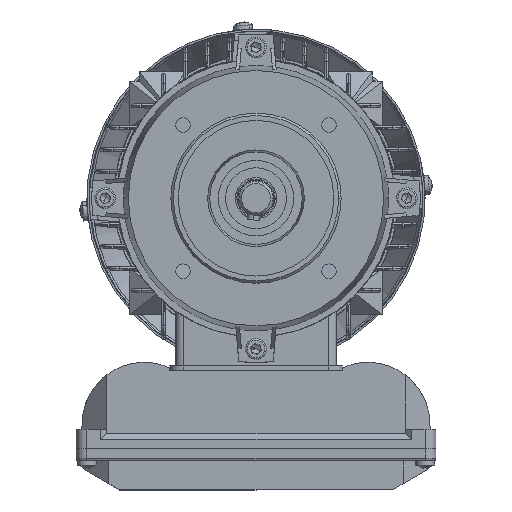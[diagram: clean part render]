
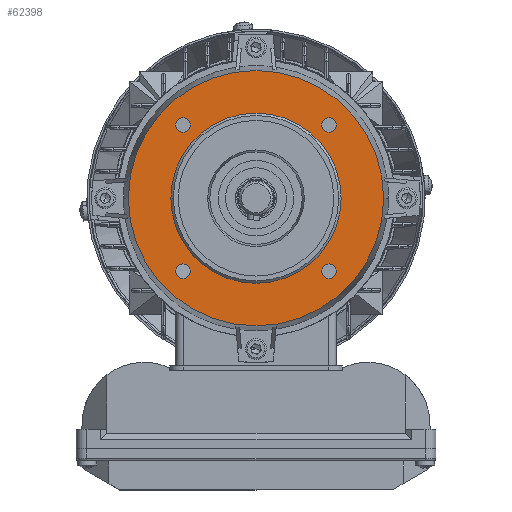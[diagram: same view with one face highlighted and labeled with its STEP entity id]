
A CAD part, front view. The second image highlights one B-rep face of the part: STEP entity #62398.
In plain terms, the highlighted planar face has unit normal (0, -1, 0).
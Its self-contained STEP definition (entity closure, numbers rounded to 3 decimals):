
#322 = CIRCLE ( 'NONE', #95672, 3. ) ;
#516 = DIRECTION ( 'NONE',  ( 0., 1., 0. ) ) ;
#1071 = AXIS2_PLACEMENT_3D ( 'NONE', #90438, #61779, #23822 ) ;
#1406 = CARTESIAN_POINT ( 'NONE',  ( 11.669, -101.956, 0. ) ) ;
#1731 = CIRCLE ( 'NONE', #120976, 3. ) ;
#5685 = CIRCLE ( 'NONE', #55283, 3. ) ;
#5962 = CIRCLE ( 'NONE', #13847, 3. ) ;
#6706 = EDGE_LOOP ( 'NONE', ( #52872, #12403 ) ) ;
#6913 = DIRECTION ( 'NONE',  ( 0., -1., 0. ) ) ;
#7221 = VERTEX_POINT ( 'NONE', #93813 ) ;
#7744 = DIRECTION ( 'NONE',  ( 1., 0., 0. ) ) ;
#7893 = VERTEX_POINT ( 'NONE', #41934 ) ;
#8940 = FACE_BOUND ( 'NONE', #121042, .T. ) ;
#9597 = CARTESIAN_POINT ( 'NONE',  ( 41.721, -101.956, -30.052 ) ) ;
#10321 = CARTESIAN_POINT ( 'NONE',  ( -40.831, -101.956, 0. ) ) ;
#11697 = CARTESIAN_POINT ( 'NONE',  ( 11.669, -101.956, 0. ) ) ;
#12403 = ORIENTED_EDGE ( 'NONE', *, *, #94538, .F. ) ;
#13397 = EDGE_LOOP ( 'NONE', ( #71540, #41876 ) ) ;
#13443 = CIRCLE ( 'NONE', #77082, 35. ) ;
#13493 = CIRCLE ( 'NONE', #94984, 52.5 ) ;
#13847 = AXIS2_PLACEMENT_3D ( 'NONE', #101835, #73830, #37075 ) ;
#17170 = CARTESIAN_POINT ( 'NONE',  ( -15.383, -101.956, -30.052 ) ) ;
#20406 = DIRECTION ( 'NONE',  ( -1., 0., 0. ) ) ;
#21633 = EDGE_CURVE ( 'NONE', #29491, #51544, #26386, .T. ) ;
#21645 = ORIENTED_EDGE ( 'NONE', *, *, #118406, .F. ) ;
#22593 = VERTEX_POINT ( 'NONE', #37470 ) ;
#22851 = CARTESIAN_POINT ( 'NONE',  ( 11.669, -101.956, 0. ) ) ;
#22974 = DIRECTION ( 'NONE',  ( -1., 0., 0. ) ) ;
#23806 = CIRCLE ( 'NONE', #101369, 3. ) ;
#23822 = DIRECTION ( 'NONE',  ( 1., 0., 0. ) ) ;
#26386 = CIRCLE ( 'NONE', #62133, 3. ) ;
#29491 = VERTEX_POINT ( 'NONE', #36252 ) ;
#29644 = EDGE_CURVE ( 'NONE', #103256, #22593, #70981, .T. ) ;
#31073 = VERTEX_POINT ( 'NONE', #62333 ) ;
#31653 = EDGE_CURVE ( 'NONE', #22593, #103256, #13443, .T. ) ;
#31860 = VERTEX_POINT ( 'NONE', #17170 ) ;
#32839 = ORIENTED_EDGE ( 'NONE', *, *, #111057, .F. ) ;
#32969 = EDGE_CURVE ( 'NONE', #7893, #73748, #1731, .T. ) ;
#33098 = CARTESIAN_POINT ( 'NONE',  ( -18.383, -101.956, 30.052 ) ) ;
#36252 = CARTESIAN_POINT ( 'NONE',  ( 44.721, -101.956, 30.052 ) ) ;
#37075 = DIRECTION ( 'NONE',  ( 1., 0., 0. ) ) ;
#37470 = CARTESIAN_POINT ( 'NONE',  ( 46.669, -101.956, 0. ) ) ;
#39309 = DIRECTION ( 'NONE',  ( 0., -1., 0. ) ) ;
#39402 = DIRECTION ( 'NONE',  ( 0., -1., 0. ) ) ;
#39948 = CARTESIAN_POINT ( 'NONE',  ( 11.669, -101.956, 0. ) ) ;
#41876 = ORIENTED_EDGE ( 'NONE', *, *, #106941, .F. ) ;
#41934 = CARTESIAN_POINT ( 'NONE',  ( 38.721, -101.956, -30.052 ) ) ;
#45295 = CIRCLE ( 'NONE', #67166, 52.5 ) ;
#46999 = DIRECTION ( 'NONE',  ( 1., 0., 0. ) ) ;
#47066 = EDGE_CURVE ( 'NONE', #116061, #7221, #322, .T. ) ;
#47559 = DIRECTION ( 'NONE',  ( 0., -1., 0. ) ) ;
#51544 = VERTEX_POINT ( 'NONE', #66334 ) ;
#51608 = DIRECTION ( 'NONE',  ( 0., 1., 0. ) ) ;
#52001 = ORIENTED_EDGE ( 'NONE', *, *, #47066, .F. ) ;
#52872 = ORIENTED_EDGE ( 'NONE', *, *, #21633, .F. ) ;
#55283 = AXIS2_PLACEMENT_3D ( 'NONE', #73137, #109895, #7744 ) ;
#55432 = ORIENTED_EDGE ( 'NONE', *, *, #106475, .F. ) ;
#60824 = DIRECTION ( 'NONE',  ( 0., 1., 0. ) ) ;
#61093 = DIRECTION ( 'NONE',  ( -1., 0., 0. ) ) ;
#61779 = DIRECTION ( 'NONE',  ( 0., -1., 0. ) ) ;
#62025 = ORIENTED_EDGE ( 'NONE', *, *, #32969, .F. ) ;
#62133 = AXIS2_PLACEMENT_3D ( 'NONE', #117133, #39309, #114660 ) ;
#62333 = CARTESIAN_POINT ( 'NONE',  ( 64.169, -101.956, 0. ) ) ;
#62398 = ADVANCED_FACE ( 'NONE', ( #76170, #66192, #84257, #122242, #94229, #8940 ), #84882, .T. ) ;
#62661 = ORIENTED_EDGE ( 'NONE', *, *, #29644, .T. ) ;
#66192 = FACE_BOUND ( 'NONE', #113962, .T. ) ;
#66334 = CARTESIAN_POINT ( 'NONE',  ( 38.721, -101.956, 30.052 ) ) ;
#67166 = AXIS2_PLACEMENT_3D ( 'NONE', #1406, #51608, #22974 ) ;
#67336 = EDGE_LOOP ( 'NONE', ( #55432, #21645 ) ) ;
#70020 = DIRECTION ( 'NONE',  ( 0., -1., 0. ) ) ;
#70454 = DIRECTION ( 'NONE',  ( 0., 1., 0. ) ) ;
#70981 = CIRCLE ( 'NONE', #82877, 35. ) ;
#71540 = ORIENTED_EDGE ( 'NONE', *, *, #121149, .F. ) ;
#71687 = DIRECTION ( 'NONE',  ( 1., 0., 0. ) ) ;
#73137 = CARTESIAN_POINT ( 'NONE',  ( 41.721, -101.956, 30.052 ) ) ;
#73407 = VERTEX_POINT ( 'NONE', #96726 ) ;
#73748 = VERTEX_POINT ( 'NONE', #103458 ) ;
#73830 = DIRECTION ( 'NONE',  ( 0., -1., 0. ) ) ;
#76170 = FACE_OUTER_BOUND ( 'NONE', #13397, .T. ) ;
#76602 = CIRCLE ( 'NONE', #1071, 3. ) ;
#77082 = AXIS2_PLACEMENT_3D ( 'NONE', #22851, #60824, #98816 ) ;
#77396 = DIRECTION ( 'NONE',  ( 1., 0., 0. ) ) ;
#78145 = CARTESIAN_POINT ( 'NONE',  ( 41.721, -101.956, -30.052 ) ) ;
#82877 = AXIS2_PLACEMENT_3D ( 'NONE', #39948, #70454, #61093 ) ;
#84257 = FACE_BOUND ( 'NONE', #67336, .T. ) ;
#84353 = CARTESIAN_POINT ( 'NONE',  ( -18.383, -101.956, -30.052 ) ) ;
#84882 = PLANE ( 'NONE',  #111568 ) ;
#90438 = CARTESIAN_POINT ( 'NONE',  ( -18.383, -101.956, -30.052 ) ) ;
#93692 = DIRECTION ( 'NONE',  ( 0., -1., 0. ) ) ;
#93813 = CARTESIAN_POINT ( 'NONE',  ( -15.383, -101.956, 30.052 ) ) ;
#94229 = FACE_BOUND ( 'NONE', #6706, .T. ) ;
#94538 = EDGE_CURVE ( 'NONE', #51544, #29491, #5685, .T. ) ;
#94984 = AXIS2_PLACEMENT_3D ( 'NONE', #11697, #516, #20406 ) ;
#95672 = AXIS2_PLACEMENT_3D ( 'NONE', #33098, #6913, #71687 ) ;
#96726 = CARTESIAN_POINT ( 'NONE',  ( -21.383, -101.956, -30.052 ) ) ;
#97149 = ORIENTED_EDGE ( 'NONE', *, *, #110897, .F. ) ;
#98539 = CARTESIAN_POINT ( 'NONE',  ( -40.831, -101.956, 0. ) ) ;
#98816 = DIRECTION ( 'NONE',  ( -1., 0., 0. ) ) ;
#100414 = EDGE_LOOP ( 'NONE', ( #32839, #62025 ) ) ;
#101369 = AXIS2_PLACEMENT_3D ( 'NONE', #78145, #70020, #108006 ) ;
#101835 = CARTESIAN_POINT ( 'NONE',  ( -18.383, -101.956, 30.052 ) ) ;
#102512 = ORIENTED_EDGE ( 'NONE', *, *, #31653, .T. ) ;
#103256 = VERTEX_POINT ( 'NONE', #105432 ) ;
#103458 = CARTESIAN_POINT ( 'NONE',  ( 44.721, -101.956, -30.052 ) ) ;
#105432 = CARTESIAN_POINT ( 'NONE',  ( -23.331, -101.956, 0. ) ) ;
#105450 = DIRECTION ( 'NONE',  ( 1., 0., 0. ) ) ;
#105526 = CARTESIAN_POINT ( 'NONE',  ( -21.383, -101.956, 30.052 ) ) ;
#106475 = EDGE_CURVE ( 'NONE', #31860, #73407, #116880, .T. ) ;
#106907 = AXIS2_PLACEMENT_3D ( 'NONE', #84353, #93692, #46999 ) ;
#106941 = EDGE_CURVE ( 'NONE', #31073, #117673, #45295, .T. ) ;
#108006 = DIRECTION ( 'NONE',  ( 1., 0., 0. ) ) ;
#109895 = DIRECTION ( 'NONE',  ( 0., -1., 0. ) ) ;
#110897 = EDGE_CURVE ( 'NONE', #7221, #116061, #5962, .T. ) ;
#111057 = EDGE_CURVE ( 'NONE', #73748, #7893, #23806, .T. ) ;
#111568 = AXIS2_PLACEMENT_3D ( 'NONE', #98539, #39402, #77396 ) ;
#113962 = EDGE_LOOP ( 'NONE', ( #97149, #52001 ) ) ;
#114660 = DIRECTION ( 'NONE',  ( 1., 0., 0. ) ) ;
#116061 = VERTEX_POINT ( 'NONE', #105526 ) ;
#116880 = CIRCLE ( 'NONE', #106907, 3. ) ;
#117133 = CARTESIAN_POINT ( 'NONE',  ( 41.721, -101.956, 30.052 ) ) ;
#117673 = VERTEX_POINT ( 'NONE', #10321 ) ;
#118406 = EDGE_CURVE ( 'NONE', #73407, #31860, #76602, .T. ) ;
#120976 = AXIS2_PLACEMENT_3D ( 'NONE', #9597, #47559, #105450 ) ;
#121042 = EDGE_LOOP ( 'NONE', ( #62661, #102512 ) ) ;
#121149 = EDGE_CURVE ( 'NONE', #117673, #31073, #13493, .T. ) ;
#122242 = FACE_BOUND ( 'NONE', #100414, .T. ) ;
